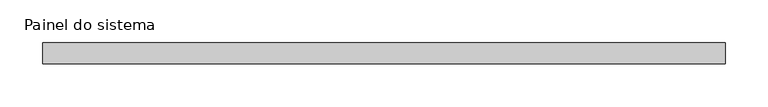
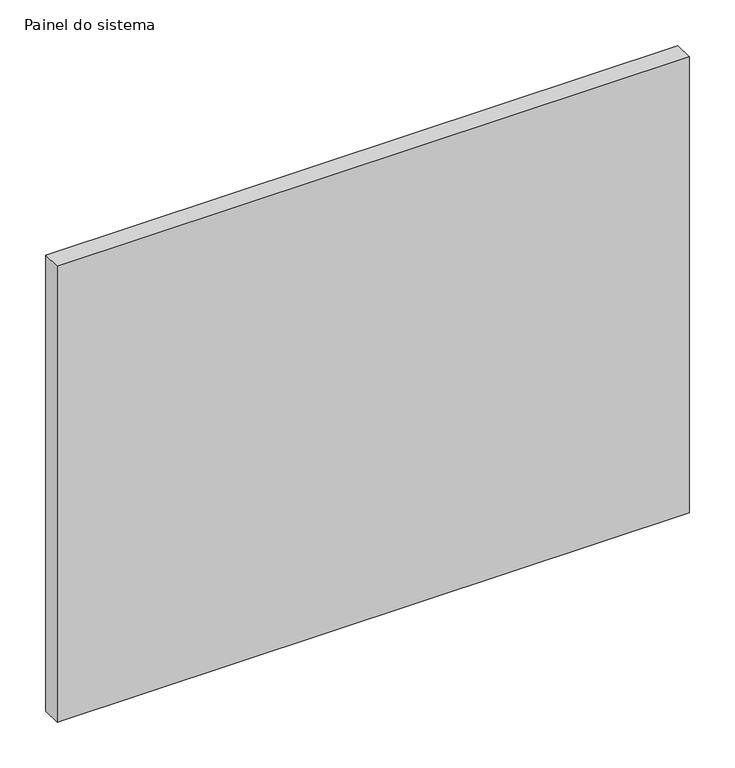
"""IFC4 building model written with IfcOpenShell, lengths in millimetres: plate geometry, Painel do sistema : Envidraçado."""

from ifc_helpers import new_model, si_unit, origin, origin_with_axes, place, context, project, spatial, polyline, outline, extrude, source, transform, mapped, element, save


def painel_do_sistema_af6e4945(model_context):
    return source(origin(), model_context, "Body", "SweptSolid", [
        extrude(outline(polyline([(400.0, 24.5), (-400.0, 24.5), (-400.0, 49.5), (400.0, 49.5), (400.0, 24.5)])), origin_with_axes(), (0.0, 0.0, 1.0), 610.0),
    ])


if __name__ == "__main__":
    model = new_model("IFC4")
    model_context = context("Model", 3, world=origin())
    ifc_project = project(units=[si_unit("LENGTHUNIT", "METRE", prefix="MILLI")], contexts=[model_context])
    site = spatial("IfcSite", under=ifc_project)
    building = spatial("IfcBuilding", under=site)
    placement = place(None, origin())
    painel_do_sistema_shape = painel_do_sistema_af6e4945(model_context)
    element("IfcPlate", 1, ObjectType="Painel do sistema : Envidraçado", at=placement, inside=building, context=model_context, shape_type="MappedRepresentation", body=[
        mapped(painel_do_sistema_shape, transform((0.0, 0.0, 0.0), x_axis=(1.0, 0.0, 0.0), y_axis=(0.0, 1.0, 0.0), z_axis=(0.0, 0.0, 1.0))),
    ])
    save(model, "model.ifc")
